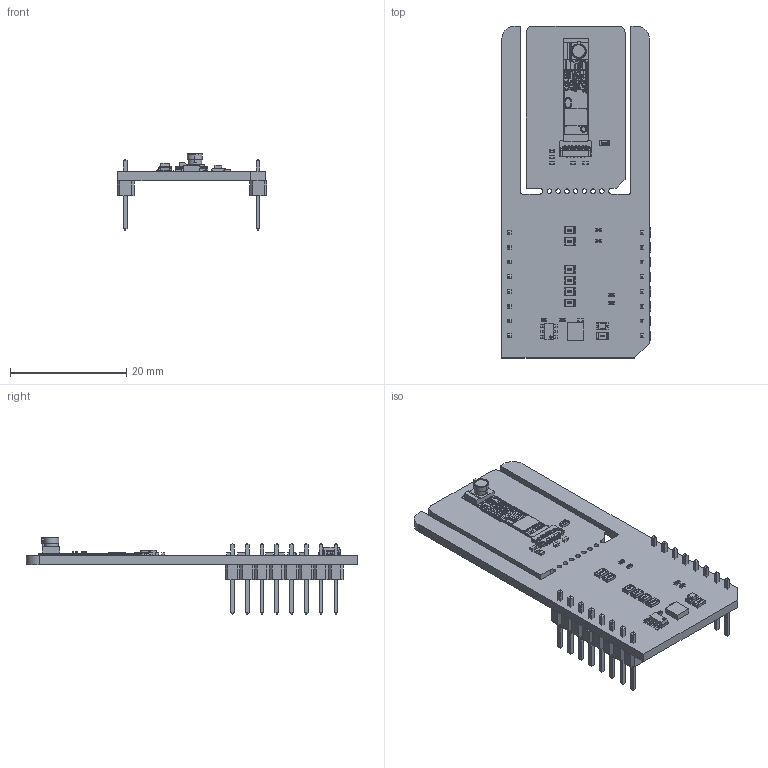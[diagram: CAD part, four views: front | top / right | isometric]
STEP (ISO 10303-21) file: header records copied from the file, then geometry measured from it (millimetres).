
FILE_DESCRIPTION(('Open CASCADE Model'),'2;1');
FILE_NAME('Open CASCADE Shape Model','2026-03-25T16:27:00',('Author'),( 'Open CASCADE'),'Open CASCADE STEP processor 7.5','Open CASCADE 7.5' ,'Unknown');
FILE_SCHEMA(('AUTOMOTIVE_DESIGN { 1 0 10303 214 1 1 1 1 }'));
Length unit declared in the file: millimetre
Products named in the file (44): PCB; Board; Open CASCADE STEP translator 7.5 1.1.1; U3; 5035661302_0; BMV080; R7; User Library-R_0402; R6; R5; R4; JP7; User Library-R_0805; JP6; JP5; JP4; JP3; JP2; JP1; User Library-R_0603; C6; User Library-SMD CAPACITOR0402; C5; C4; C3; C2; R3; R1; LD1; led_0805_green; C1; R2; U1; 7689537008; Extruded; U2; User Library-SOT23-6-2; MBD1; Header 1x8; Free-Models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
Assembly tree (61 placements, depth 7):
  PCB
    Board
      Open CASCADE STEP translator 7.5 1.1.1
    U3
      5035661302_0
      BMV080
    R7
      User Library-R_0402
    R6
      User Library-R_0402
    R5
      User Library-R_0402
    R4
      User Library-R_0402
    JP7
      User Library-R_0805
    JP6
      User Library-R_0805
    JP5
      User Library-R_0805
    JP4
      User Library-R_0805
    JP3
      User Library-R_0805
    JP2
      User Library-R_0805
    JP1
      User Library-R_0603
    C6
      User Library-SMD CAPACITOR0402
    C5
      User Library-SMD CAPACITOR0402
    C4
      User Library-SMD CAPACITOR0402
    C3
      User Library-SMD CAPACITOR0402
    C2
      User Library-SMD CAPACITOR0402
    R3
      User Library-R_0402
    R1
      User Library-R_0805
    LD1
      led_0805_green
    C1
      User Library-SMD CAPACITOR0402
    R2
      User Library-R_0402
    U1
      7689537008
        Extruded
    U2
      User Library-SOT23-6-2
    MBD1
      Header 1x8  x2
        PCB
          Free-Models
            1240637040  x2
              User_Library-PinHeaderX5-1_PinHeaderX5_Body_1
              User_Library-PinHeaderX5-1_PinHeaderX5_Pins_1
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Bounding box: 25.78 x 57.15 x 13.18 mm (x, y, z)
Volume: 2728.3 mm3; surface area: 5810.2 mm2
Topology: 139 solids, 139 shells, 8788 faces, 24252 edges, 15753 vertices
Faces by surface type: plane 6661, cylinder 1410, bspline 523, sphere 102, torus 82, cone 8, revolution 2
Full cylindrical faces by diameter (mm): 0.8 x7
Entity records: 290228 total; most frequent: CARTESIAN_POINT 93336, ORIENTED_EDGE 40564, DIRECTION 21659, EDGE_CURVE 20282, B_SPLINE_CURVE_WITH_KNOTS 13696, VERTEX_POINT 13253, AXIS2_PLACEMENT_3D 8007, FACE_BOUND 7451
